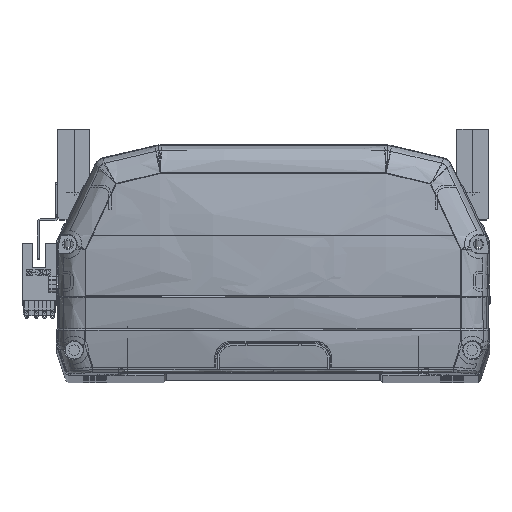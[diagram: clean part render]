
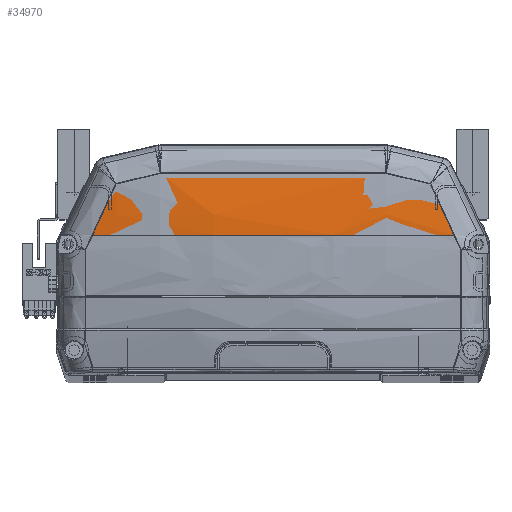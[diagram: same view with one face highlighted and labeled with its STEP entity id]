
A CAD part, top view. The second image highlights one B-rep face of the part: STEP entity #34970.
In plain terms, the highlighted toroidal (fillet/blend) face has major radius 312.5 mm and minor radius 572.4 mm.
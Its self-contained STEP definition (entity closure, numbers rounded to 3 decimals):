
#47 = CARTESIAN_POINT ( 'NONE',  ( -61.718, 75.278, -4.232 ) ) ;
#578 = AXIS2_PLACEMENT_3D ( 'NONE', #21725, #31883, #42069 ) ;
#1958 = VERTEX_POINT ( 'NONE', #47 ) ;
#4167 = CARTESIAN_POINT ( 'NONE',  ( 67.917, 61.809, -4.135 ) ) ;
#4898 = CARTESIAN_POINT ( 'NONE',  ( 71.027, 55.096, -4.524 ) ) ;
#5747 = B_SPLINE_CURVE_WITH_KNOTS ( 'NONE', 3,
 ( #13997, #13861, #14289, #11256 ),
 .UNSPECIFIED., .F., .F.,
 ( 4, 4 ),
 ( 0., 0.018 ),
 .UNSPECIFIED. ) ;
#5923 = CARTESIAN_POINT ( 'NONE',  ( -63.264, 71.911, -4.135 ) ) ;
#7513 = DIRECTION ( 'NONE',  ( 0., 0., -1. ) ) ;
#8128 = CARTESIAN_POINT ( 'NONE',  ( -55.929, 76.661, -3.711 ) ) ;
#8602 = CARTESIAN_POINT ( 'NONE',  ( 14.805, 79.361, -1.235 ) ) ;
#8878 = CARTESIAN_POINT ( 'NONE',  ( -29.579, 79.39, -1.814 ) ) ;
#10155 = EDGE_CURVE ( 'NONE', #1958, #36931, #22299, .T. ) ;
#10415 = ORIENTED_EDGE ( 'NONE', *, *, #25194, .F. ) ;
#11256 = CARTESIAN_POINT ( 'NONE',  ( 61.718, 75.278, -4.232 ) ) ;
#13861 = CARTESIAN_POINT ( 'NONE',  ( 50.132, 78.049, -3.29 ) ) ;
#13997 = CARTESIAN_POINT ( 'NONE',  ( 44.331, 79.443, -2.97 ) ) ;
#14022 = EDGE_CURVE ( 'NONE', #15697, #31319, #32072, .T. ) ;
#14289 = CARTESIAN_POINT ( 'NONE',  ( 55.929, 76.66, -3.711 ) ) ;
#14309 = DIRECTION ( 'NONE',  ( 1., 0., 0. ) ) ;
#14330 = CARTESIAN_POINT ( 'NONE',  ( 64.811, 68.545, -4.037 ) ) ;
#15069 = FACE_OUTER_BOUND ( 'NONE', #29016, .T. ) ;
#15109 = CARTESIAN_POINT ( 'NONE',  ( 44.331, 79.443, -2.97 ) ) ;
#15260 = CARTESIAN_POINT ( 'NONE',  ( 29.579, 79.389, -1.814 ) ) ;
#15413 = ORIENTED_EDGE ( 'NONE', *, *, #10155, .F. ) ;
#15697 = VERTEX_POINT ( 'NONE', #33575 ) ;
#15803 = CARTESIAN_POINT ( 'NONE',  ( -64.813, 68.545, -4.11 ) ) ;
#15948 = CARTESIAN_POINT ( 'NONE',  ( -44.331, 79.443, -2.97 ) ) ;
#16806 = ORIENTED_EDGE ( 'NONE', *, *, #38337, .F. ) ;
#18683 = CARTESIAN_POINT ( 'NONE',  ( -69.472, 58.454, -4.329 ) ) ;
#19406 = CARTESIAN_POINT ( 'NONE',  ( -44.331, 79.443, -2.97 ) ) ;
#20841 = CARTESIAN_POINT ( 'NONE',  ( 0., 55.096, -260. ) ) ;
#20877 = ORIENTED_EDGE ( 'NONE', *, *, #23627, .F. ) ;
#21655 = CARTESIAN_POINT ( 'NONE',  ( -14.788, 79.361, -1.235 ) ) ;
#21725 = CARTESIAN_POINT ( 'NONE',  ( 0., 55.096, -572.5 ) ) ;
#22299 = B_SPLINE_CURVE_WITH_KNOTS ( 'NONE', 3,
 ( #28010, #8128, #31351, #15948 ),
 .UNSPECIFIED., .F., .F.,
 ( 4, 4 ),
 ( 0., 0.018 ),
 .UNSPECIFIED. ) ;
#23383 = CARTESIAN_POINT ( 'NONE',  ( 61.718, 75.278, -4.232 ) ) ;
#23627 = EDGE_CURVE ( 'NONE', #28631, #31319, #24574, .T. ) ;
#24071 = CARTESIAN_POINT ( 'NONE',  ( 61.718, 75.278, -4.232 ) ) ;
#24574 = B_SPLINE_CURVE_WITH_KNOTS ( 'NONE', 3,
 ( #24071, #14330, #4167, #27420 ),
 .UNSPECIFIED., .F., .F.,
 ( 4, 4 ),
 ( 0., 0.022 ),
 .UNSPECIFIED. ) ;
#24898 = VERTEX_POINT ( 'NONE', #33450 ) ;
#25194 = EDGE_CURVE ( 'NONE', #36931, #24898, #40271, .T. ) ;
#25505 = CARTESIAN_POINT ( 'NONE',  ( -71.027, 55.096, -4.524 ) ) ;
#27420 = CARTESIAN_POINT ( 'NONE',  ( 71.027, 55.096, -4.524 ) ) ;
#28010 = CARTESIAN_POINT ( 'NONE',  ( -61.718, 75.278, -4.232 ) ) ;
#28631 = VERTEX_POINT ( 'NONE', #23383 ) ;
#29016 = EDGE_LOOP ( 'NONE', ( #30381, #33779, #20877, #16806, #10415, #15413 ) ) ;
#30381 = ORIENTED_EDGE ( 'NONE', *, *, #38088, .F. ) ;
#30664 = TOROIDAL_SURFACE ( 'NONE', #36088, -312.5, 572.4 ) ;
#31319 = VERTEX_POINT ( 'NONE', #4898 ) ;
#31351 = CARTESIAN_POINT ( 'NONE',  ( -50.132, 78.049, -3.29 ) ) ;
#31680 = CARTESIAN_POINT ( 'NONE',  ( -44.331, 79.443, -2.97 ) ) ;
#31883 = DIRECTION ( 'NONE',  ( 0., 1., 0. ) ) ;
#32072 = CIRCLE ( 'NONE', #578, 572.4 ) ;
#33450 = CARTESIAN_POINT ( 'NONE',  ( 44.331, 79.443, -2.97 ) ) ;
#33575 = CARTESIAN_POINT ( 'NONE',  ( -71.027, 55.096, -4.524 ) ) ;
#33779 = ORIENTED_EDGE ( 'NONE', *, *, #14022, .T. ) ;
#34970 = ADVANCED_FACE ( 'NONE', ( #15069 ), #30664, .T. ) ;
#35692 = CARTESIAN_POINT ( 'NONE',  ( -67.917, 61.816, -4.208 ) ) ;
#35817 = B_SPLINE_CURVE_WITH_KNOTS ( 'NONE', 3,
 ( #25505, #18683, #35692, #15803, #5923, #35838 ),
 .UNSPECIFIED., .F., .F.,
 ( 4, 2, 4 ),
 ( 0.006, 0.017, 0.029 ),
 .UNSPECIFIED. ) ;
#35838 = CARTESIAN_POINT ( 'NONE',  ( -61.718, 75.278, -4.232 ) ) ;
#36088 = AXIS2_PLACEMENT_3D ( 'NONE', #20841, #14309, #7513 ) ;
#36931 = VERTEX_POINT ( 'NONE', #19406 ) ;
#38088 = EDGE_CURVE ( 'NONE', #15697, #1958, #35817, .T. ) ;
#38337 = EDGE_CURVE ( 'NONE', #24898, #28631, #5747, .T. ) ;
#40271 = B_SPLINE_CURVE_WITH_KNOTS ( 'NONE', 3,
 ( #31680, #8878, #21655, #8602, #15260, #15109 ),
 .UNSPECIFIED., .F., .F.,
 ( 4, 2, 4 ),
 ( 0., 0.044, 0.089 ),
 .UNSPECIFIED. ) ;
#42069 = DIRECTION ( 'NONE',  ( 0., 0., 1. ) ) ;
